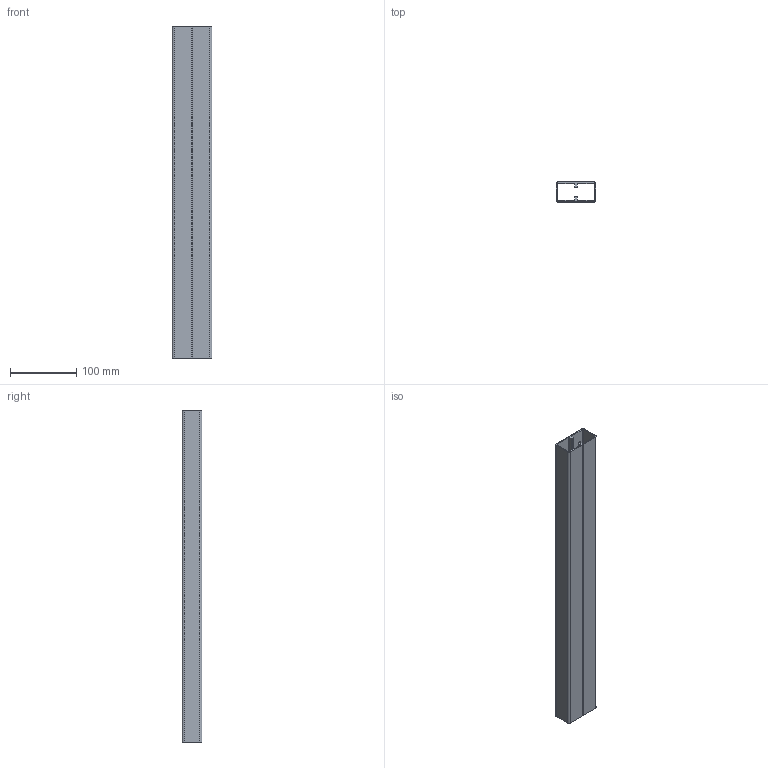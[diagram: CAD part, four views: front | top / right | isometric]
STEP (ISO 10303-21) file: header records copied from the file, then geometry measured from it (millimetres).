
FILE_DESCRIPTION (( 'STEP AP214' ), '1' );
FILE_NAME ('A40723.step', '2024-12-03T16:12:19', ( '' ), ( '' ), 'SwSTEP 2.0', 'SolidWorks 2023', '' );
FILE_SCHEMA (( 'AUTOMOTIVE_DESIGN' ));
Length unit declared in the file: millimetre
Products named in the file (1): A40723
Bounding box: 60 x 30 x 500 mm (x, y, z)
Volume: 196322.7 mm3; surface area: 178589.4 mm2
Topology: 1 solids, 1 shells, 40 faces, 114 edges, 76 vertices
Faces by surface type: plane 20, cylinder 20
Entity records: 1345 total; most frequent: DIRECTION 236, CARTESIAN_POINT 231, ORIENTED_EDGE 228, EDGE_CURVE 114, AXIS2_PLACEMENT_3D 81, VERTEX_POINT 76, VECTOR 74, LINE 74
